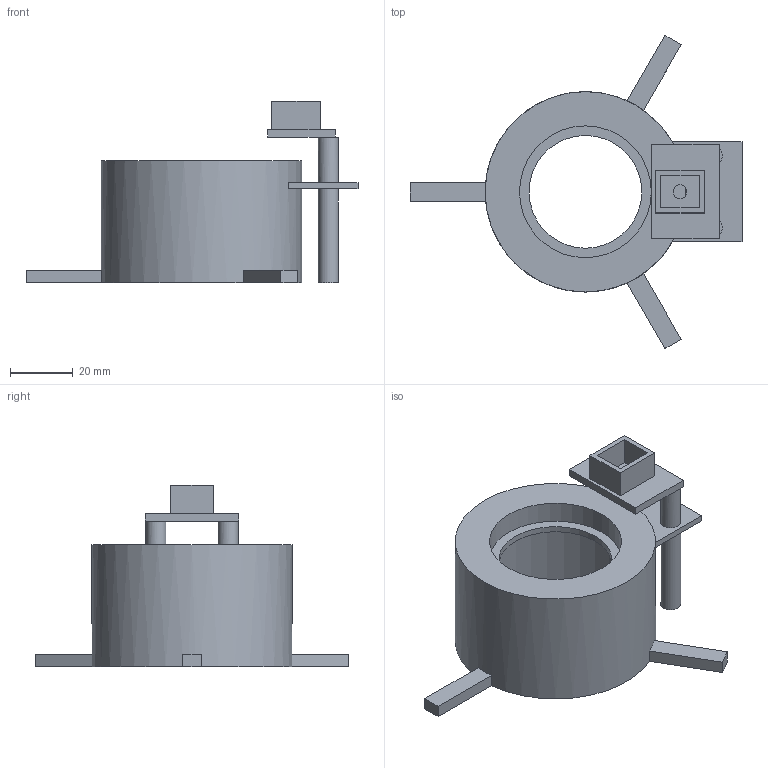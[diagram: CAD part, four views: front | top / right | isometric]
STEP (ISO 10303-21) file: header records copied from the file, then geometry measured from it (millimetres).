
FILE_DESCRIPTION(('Open CASCADE Model'),'2;1');
FILE_NAME('Open CASCADE Shape Model','2026-10-20T19:46:50',('Author'),( 'Open CASCADE'),'Open CASCADE STEP processor 8.0','build123d', 'Unknown');
FILE_SCHEMA(('AUTOMOTIVE_DESIGN { 1 0 10303 214 1 1 1 1 }'));
Length unit declared in the file: millimetre
Products named in the file (2): =>[0:1:1:2]; COMPOUND
Assembly tree (1 placements, depth 2):
  =>[0:1:1:2]
    COMPOUND
Bounding box: 106 x 99.99 x 58 mm (x, y, z)
Volume: 37018.2 mm3; surface area: 25979.7 mm2
Topology: 1 solids, 1 shells, 50 faces, 125 edges, 83 vertices
Faces by surface type: plane 41, cylinder 9
Full cylindrical faces by diameter (mm): 4.4 x1, 6.4 x4, 36 x1, 42.1 x1, 60 x1, 64 x1
Entity records: 3137 total; most frequent: CARTESIAN_POINT 534, DIRECTION 490, LINE 281, VECTOR 281, ORIENTED_EDGE 250, PCURVE 250, DEFINITIONAL_REPRESENTATION 250, EDGE_CURVE 125
